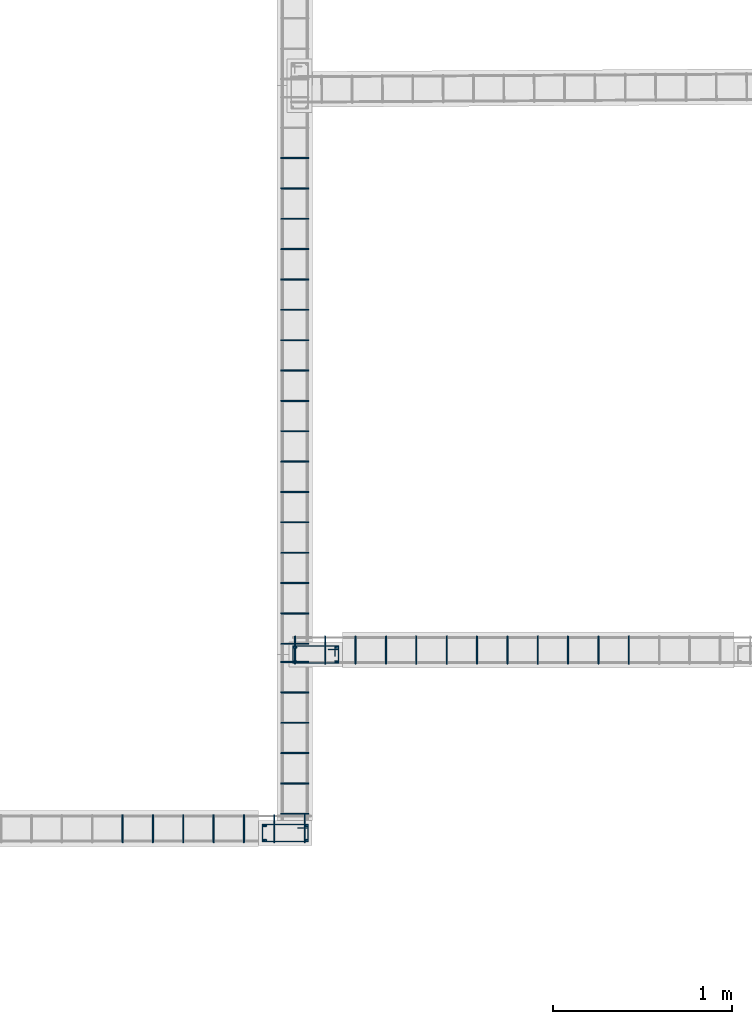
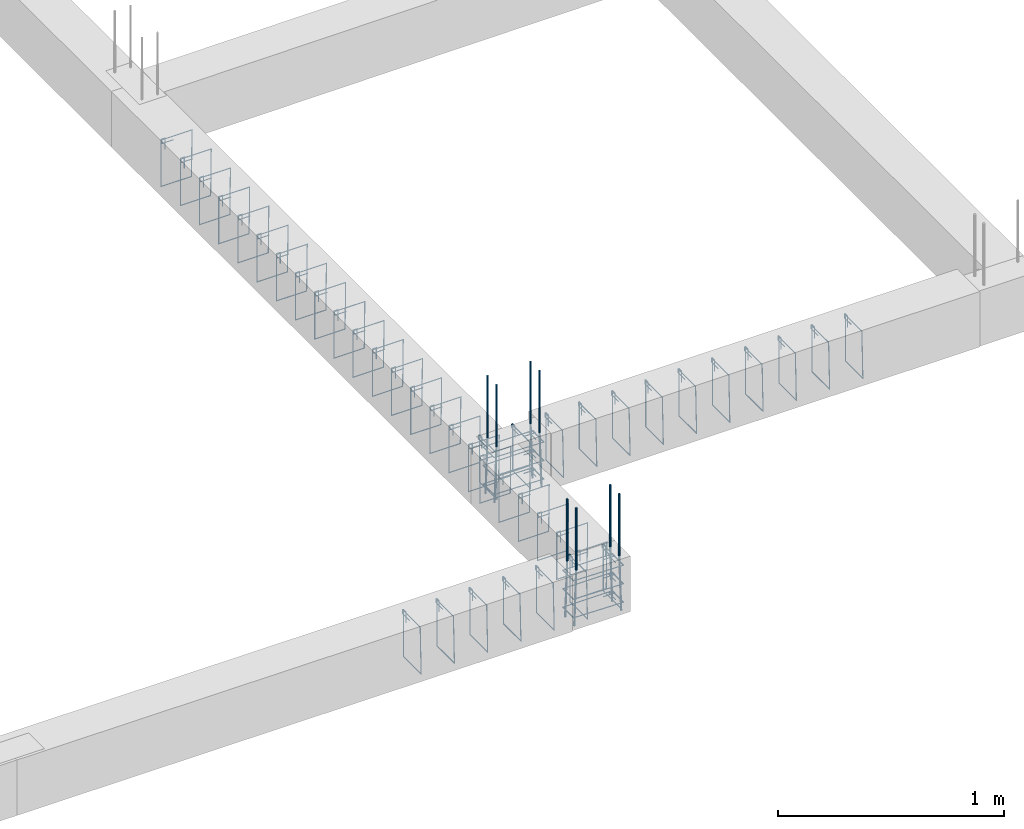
# One storey, part 23 of 150: 56 reinforcing bars.
"""IFC4 building model written with IfcOpenShell, lengths in centimetres."""

from ifc_helpers import new_model, entity, si_unit, derived_unit, frame, origin_with_axes, place, context, project, spatial, source, transform, mapped, element, save


model = new_model("IFC4")

# Units and contexts
model_context = context("Model", 3, precision=1e-05, world=origin_with_axes(), identifier="Body")
ifc_project = project(units=[si_unit("LENGTHUNIT", "METRE", prefix="CENTI"), si_unit("VOLUMEUNIT", "CUBIC_METRE"), si_unit("AREAUNIT", "SQUARE_METRE"), si_unit("POWERUNIT", "WATT"), si_unit("LUMINOUSFLUXUNIT", "LUMEN"), si_unit("ELECTRICCURRENTUNIT", "AMPERE"), si_unit("PRESSUREUNIT", "PASCAL", prefix="KILO"), si_unit("MASSUNIT", "GRAM", prefix="KILO"), si_unit("PLANEANGLEUNIT", "RADIAN"), derived_unit("VOLUMETRICFLOWRATEUNIT", [(si_unit("LENGTHUNIT", "METRE"), 3), (si_unit("TIMEUNIT", "SECOND"), -1)])], contexts=[model_context])

# Site, building, storey
site_placement = place(None, frame((-4000.0, 0.0, 0.0), z_axis=(0.0, 0.0, 1.0), x_axis=(1.0, 0.0, 0.0)))
site = spatial("IfcSite", under=ifc_project, at=site_placement, Name="PADRÃO")
building_placement = place(site_placement, frame((0.0, 0.0, -14.0)))
building = spatial("IfcBuilding", under=site, at=building_placement, Name="CRECHE PRÉ-ESCOLA TIPO 2")
placement = place(building_placement, origin_with_axes())
storey_placement = place(placement, frame((0.0, 0.0, 30.0), z_axis=(0.0, 0.0, 1.0), x_axis=(1.0, 0.0, 0.0)))
storey = spatial("IfcBuildingStorey", under=building, at=storey_placement, Name="VIGA BALDRAME", CompositionType="ELEMENT", Elevation=16.0)

# Reinforcing bars
shared_shape_1 = source(origin_with_axes(), model_context, "Body", "AdvancedSweptSolid", [
    entity("IfcSweptDiskSolid", entity("IfcCompositeCurve", [entity("IfcCompositeCurveSegment", "CONTINUOUS", True, entity("IfcPolyline", [entity("IfcCartesianPoint", [4.25, 21.75, 0.0]), entity("IfcCartesianPoint", [4.25, 27.75, 0.0])])), entity("IfcCompositeCurveSegment", "CONTINUOUS", True, entity("IfcPolyline", [entity("IfcCartesianPoint", [4.25, 27.75, 0.0]), entity("IfcCartesianPoint", [2.25, 27.75, 0.0])])), entity("IfcCompositeCurveSegment", "CONTINUOUS", True, entity("IfcPolyline", [entity("IfcCartesianPoint", [2.25, 27.75, 0.0]), entity("IfcCartesianPoint", [2.25, 2.25, 0.0])])), entity("IfcCompositeCurveSegment", "CONTINUOUS", True, entity("IfcPolyline", [entity("IfcCartesianPoint", [2.25, 2.25, 0.0]), entity("IfcCartesianPoint", [11.75, 2.25, 0.0])])), entity("IfcCompositeCurveSegment", "CONTINUOUS", True, entity("IfcPolyline", [entity("IfcCartesianPoint", [11.75, 2.25, 0.0]), entity("IfcCartesianPoint", [11.75, 27.75, -0.5])])), entity("IfcCompositeCurveSegment", "CONTINUOUS", True, entity("IfcPolyline", [entity("IfcCartesianPoint", [11.75, 27.75, -0.5]), entity("IfcCartesianPoint", [2.25, 27.75, -0.5])])), entity("IfcCompositeCurveSegment", "CONTINUOUS", True, entity("IfcPolyline", [entity("IfcCartesianPoint", [2.25, 27.75, -0.5]), entity("IfcCartesianPoint", [2.25, 25.75, -0.5])])), entity("IfcCompositeCurveSegment", "CONTINUOUS", True, entity("IfcPolyline", [entity("IfcCartesianPoint", [2.25, 25.75, -0.5]), entity("IfcCartesianPoint", [8.25, 25.75, -0.5])]))], False), 0.25),
])
for number, where, z_axis, x_axis, name in (
    (1, (1112.72, 522.01, -5.0), (0.0, 0.0, 1.0), (0.0, -1.0, 0.0), "P137 - Estribo"),
    (2, (1112.72, 522.01, -25.0), (0.0, 0.0, 1.0), (0.0, -1.0, 0.0), "P137 - Estribo"),
    (3, (1112.72, 522.01, -15.0), (0.0, 0.0, 1.0), (0.0, -1.0, 0.0), "P137 - Estribo"),
):
    element("IfcReinforcingBar", number, at=place(storey_placement, frame(where, z_axis=z_axis, x_axis=x_axis)), inside=storey, Name=name, BarLength=0.0, CrossSectionArea=1.9634954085e-05, NominalDiameter=0.5, PredefinedType="MAIN", context=model_context, shape_type="MappedRepresentation", body=[
        mapped(shared_shape_1, transform((0.0, 0.0, 0.0), scale=1.0)),
    ])
shared_shape_2 = source(origin_with_axes(), model_context, "Body", "AdvancedSweptSolid", [
    entity("IfcSweptDiskSolid", entity("IfcCompositeCurve", [entity("IfcCompositeCurveSegment", "CONTINUOUS", True, entity("IfcPolyline", [entity("IfcCartesianPoint", [4.25, 21.75, 0.0]), entity("IfcCartesianPoint", [4.25, 27.75, 0.0])])), entity("IfcCompositeCurveSegment", "CONTINUOUS", True, entity("IfcPolyline", [entity("IfcCartesianPoint", [4.25, 27.75, 0.0]), entity("IfcCartesianPoint", [2.25, 27.75, 0.0])])), entity("IfcCompositeCurveSegment", "CONTINUOUS", True, entity("IfcPolyline", [entity("IfcCartesianPoint", [2.25, 27.75, 0.0]), entity("IfcCartesianPoint", [2.25, 2.25, 0.0])])), entity("IfcCompositeCurveSegment", "CONTINUOUS", True, entity("IfcPolyline", [entity("IfcCartesianPoint", [2.25, 2.25, 0.0]), entity("IfcCartesianPoint", [11.75, 2.25, 0.0])])), entity("IfcCompositeCurveSegment", "CONTINUOUS", True, entity("IfcPolyline", [entity("IfcCartesianPoint", [11.75, 2.25, 0.0]), entity("IfcCartesianPoint", [11.75, 27.75, -0.5])])), entity("IfcCompositeCurveSegment", "CONTINUOUS", True, entity("IfcPolyline", [entity("IfcCartesianPoint", [11.75, 27.75, -0.5]), entity("IfcCartesianPoint", [2.25, 27.75, -0.5])])), entity("IfcCompositeCurveSegment", "CONTINUOUS", True, entity("IfcPolyline", [entity("IfcCartesianPoint", [2.25, 27.75, -0.5]), entity("IfcCartesianPoint", [2.25, 25.75, -0.5])])), entity("IfcCompositeCurveSegment", "CONTINUOUS", True, entity("IfcPolyline", [entity("IfcCartesianPoint", [2.25, 25.75, -0.5]), entity("IfcCartesianPoint", [8.25, 25.75, -0.5])]))], False), 0.25),
])
for number, where, z_axis, x_axis, name in (
    (4, (1095.72, 422.01, -25.0), (0.0, 0.0, 1.0), (0.0, -1.0, 0.0), "P145 - Estribo"),
    (5, (1095.72, 422.01, -15.0), (0.0, 0.0, 1.0), (0.0, -1.0, 0.0), "P145 - Estribo"),
    (6, (1095.72, 422.01, -5.0), (0.0, 0.0, 1.0), (0.0, -1.0, 0.0), "P145 - Estribo"),
):
    element("IfcReinforcingBar", number, at=place(storey_placement, frame(where, z_axis=z_axis, x_axis=x_axis)), inside=storey, Name=name, BarLength=0.0, CrossSectionArea=1.9634954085e-05, NominalDiameter=0.5, PredefinedType="MAIN", context=model_context, shape_type="MappedRepresentation", body=[
        mapped(shared_shape_2, transform((0.0, 0.0, 0.0), scale=1.0)),
    ])
shared_shape_3 = source(origin_with_axes(), model_context, "Body", "AdvancedSweptSolid", [
    entity("IfcSweptDiskSolid", entity("IfcCompositeCurve", [entity("IfcCompositeCurveSegment", "CONTINUOUS", True, entity("IfcPolyline", [entity("IfcCartesianPoint", [2.0, -6.0, 0.0]), entity("IfcCartesianPoint", [2.0, 0.0, 0.0])])), entity("IfcCompositeCurveSegment", "CONTINUOUS", True, entity("IfcPolyline", [entity("IfcCartesianPoint", [2.0, 0.0, 0.0]), entity("IfcCartesianPoint", [0.0, 0.0, 0.0])])), entity("IfcCompositeCurveSegment", "CONTINUOUS", True, entity("IfcPolyline", [entity("IfcCartesianPoint", [0.0, 0.0, 0.0]), entity("IfcCartesianPoint", [0.0, -25.5, 0.0])])), entity("IfcCompositeCurveSegment", "CONTINUOUS", True, entity("IfcPolyline", [entity("IfcCartesianPoint", [0.0, -25.5, 0.0]), entity("IfcCartesianPoint", [15.5, -25.5, 0.0])])), entity("IfcCompositeCurveSegment", "CONTINUOUS", True, entity("IfcPolyline", [entity("IfcCartesianPoint", [15.5, -25.5, 0.0]), entity("IfcCartesianPoint", [15.5, 0.0, 0.5])])), entity("IfcCompositeCurveSegment", "CONTINUOUS", True, entity("IfcPolyline", [entity("IfcCartesianPoint", [15.5, 0.0, 0.5]), entity("IfcCartesianPoint", [0.0, 0.0, 0.5])])), entity("IfcCompositeCurveSegment", "CONTINUOUS", True, entity("IfcPolyline", [entity("IfcCartesianPoint", [0.0, 0.0, 0.5]), entity("IfcCartesianPoint", [0.0, -2.0, 0.5])])), entity("IfcCompositeCurveSegment", "CONTINUOUS", True, entity("IfcPolyline", [entity("IfcCartesianPoint", [0.0, -2.0, 0.5]), entity("IfcCartesianPoint", [6.0, -2.0, 0.5])]))], False), 0.25),
])
for number, where, z_axis, x_axis, name in (
    (7, (1121.75499958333, 425.26, -2.25), (-1.0, 0.0, 0.0), (0.0, -1.0, 0.0), "V154 - Estribo"),
    (8, (1104.75499958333, 425.26, -2.25), (-1.0, 0.0, 0.0), (0.0, -1.0, 0.0), "V154 - Estribo"),
    (9, (1087.75499958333, 425.26, -2.25), (-1.0, 0.0, 0.0), (0.0, -1.0, 0.0), "V154 - Estribo"),
    (10, (1070.75499958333, 425.26, -2.25), (-1.0, 0.0, 0.0), (0.0, -1.0, 0.0), "V154 - Estribo"),
    (11, (1053.75499958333, 425.26, -2.25), (-1.0, 0.0, 0.0), (0.0, -1.0, 0.0), "V154 - Estribo"),
    (12, (1036.75499958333, 425.26, -2.25), (-1.0, 0.0, 0.0), (0.0, -1.0, 0.0), "V154 - Estribo"),
    (13, (1019.75499958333, 425.26, -2.25), (-1.0, 0.0, 0.0), (0.0, -1.0, 0.0), "V154 - Estribo"),
):
    element("IfcReinforcingBar", number, at=place(storey_placement, frame(where, z_axis=z_axis, x_axis=x_axis)), inside=storey, Name=name, BarLength=0.0, CrossSectionArea=1.9634954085e-05, NominalDiameter=0.5, PredefinedType="MAIN", context=model_context, shape_type="MappedRepresentation", body=[
        mapped(shared_shape_3, transform((0.0, 0.0, 0.0), scale=1.0)),
    ])
shared_shape_4 = source(origin_with_axes(), model_context, "Body", "AdvancedSweptSolid", [
    entity("IfcSweptDiskSolid", entity("IfcCompositeCurve", [entity("IfcCompositeCurveSegment", "CONTINUOUS", True, entity("IfcPolyline", [entity("IfcCartesianPoint", [2.0, -6.0, 0.0]), entity("IfcCartesianPoint", [2.0, 0.0, 0.0])])), entity("IfcCompositeCurveSegment", "CONTINUOUS", True, entity("IfcPolyline", [entity("IfcCartesianPoint", [2.0, 0.0, 0.0]), entity("IfcCartesianPoint", [0.0, 0.0, 0.0])])), entity("IfcCompositeCurveSegment", "CONTINUOUS", True, entity("IfcPolyline", [entity("IfcCartesianPoint", [0.0, 0.0, 0.0]), entity("IfcCartesianPoint", [0.0, -25.5, 0.0])])), entity("IfcCompositeCurveSegment", "CONTINUOUS", True, entity("IfcPolyline", [entity("IfcCartesianPoint", [0.0, -25.5, 0.0]), entity("IfcCartesianPoint", [15.5, -25.5, 0.0])])), entity("IfcCompositeCurveSegment", "CONTINUOUS", True, entity("IfcPolyline", [entity("IfcCartesianPoint", [15.5, -25.5, 0.0]), entity("IfcCartesianPoint", [15.5, 0.0, 0.5])])), entity("IfcCompositeCurveSegment", "CONTINUOUS", True, entity("IfcPolyline", [entity("IfcCartesianPoint", [15.5, 0.0, 0.5]), entity("IfcCartesianPoint", [0.0, 0.0, 0.5])])), entity("IfcCompositeCurveSegment", "CONTINUOUS", True, entity("IfcPolyline", [entity("IfcCartesianPoint", [0.0, 0.0, 0.5]), entity("IfcCartesianPoint", [0.0, -2.0, 0.5])])), entity("IfcCompositeCurveSegment", "CONTINUOUS", True, entity("IfcPolyline", [entity("IfcCartesianPoint", [0.0, -2.0, 0.5]), entity("IfcCartesianPoint", [6.0, -2.0, 0.5])]))], False), 0.25),
])
for number, where, z_axis, x_axis, name in (
    (14, (1133.28, 525.26, -2.25), (-1.0, 0.0, 0.0), (0.0, -1.0, 0.0), "V150 - Estribo"),
    (15, (1116.28, 525.26, -2.25), (-1.0, 0.0, 0.0), (0.0, -1.0, 0.0), "V150 - Estribo"),
    (16, (1218.28, 525.26, -2.25), (-1.0, 0.0, 0.0), (0.0, -1.0, 0.0), "V150 - Estribo"),
    (17, (1201.28, 525.26, -2.25), (-1.0, 0.0, 0.0), (0.0, -1.0, 0.0), "V150 - Estribo"),
    (18, (1235.28, 525.26, -2.25), (-1.0, 0.0, 0.0), (0.0, -1.0, 0.0), "V150 - Estribo"),
    (19, (1252.28, 525.26, -2.25), (-1.0, 0.0, 0.0), (0.0, -1.0, 0.0), "V150 - Estribo"),
    (20, (1184.28, 525.26, -2.25), (-1.0, 0.0, 0.0), (0.0, -1.0, 0.0), "V150 - Estribo"),
    (21, (1286.28, 525.26, -2.25), (-1.0, 0.0, 0.0), (0.0, -1.0, 0.0), "V150 - Estribo"),
    (22, (1269.28, 525.26, -2.25), (-1.0, 0.0, 0.0), (0.0, -1.0, 0.0), "V150 - Estribo"),
    (23, (1167.28, 525.26, -2.25), (-1.0, 0.0, 0.0), (0.0, -1.0, 0.0), "V150 - Estribo"),
    (24, (1150.28, 525.26, -2.25), (-1.0, 0.0, 0.0), (0.0, -1.0, 0.0), "V150 - Estribo"),
    (25, (1303.28, 525.26, -2.25), (-1.0, 0.0, 0.0), (0.0, -1.0, 0.0), "V150 - Estribo"),
):
    element("IfcReinforcingBar", number, at=place(storey_placement, frame(where, z_axis=z_axis, x_axis=x_axis)), inside=storey, Name=name, BarLength=0.0, CrossSectionArea=1.9634954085e-05, NominalDiameter=0.5, PredefinedType="MAIN", context=model_context, shape_type="MappedRepresentation", body=[
        mapped(shared_shape_4, transform((0.0, 0.0, 0.0), scale=1.0)),
    ])
shared_shape_5 = source(origin_with_axes(), model_context, "Body", "AdvancedSweptSolid", [
    entity("IfcSweptDiskSolid", entity("IfcCompositeCurve", [entity("IfcCompositeCurveSegment", "CONTINUOUS", True, entity("IfcPolyline", [entity("IfcCartesianPoint", [2.0, -6.0, 0.0]), entity("IfcCartesianPoint", [2.0, 0.0, 0.0])])), entity("IfcCompositeCurveSegment", "CONTINUOUS", True, entity("IfcPolyline", [entity("IfcCartesianPoint", [2.0, 0.0, 0.0]), entity("IfcCartesianPoint", [0.0, 0.0, 0.0])])), entity("IfcCompositeCurveSegment", "CONTINUOUS", True, entity("IfcPolyline", [entity("IfcCartesianPoint", [0.0, 0.0, 0.0]), entity("IfcCartesianPoint", [0.0, -25.5, 0.0])])), entity("IfcCompositeCurveSegment", "CONTINUOUS", True, entity("IfcPolyline", [entity("IfcCartesianPoint", [0.0, -25.5, 0.0]), entity("IfcCartesianPoint", [15.5, -25.5, 0.0])])), entity("IfcCompositeCurveSegment", "CONTINUOUS", True, entity("IfcPolyline", [entity("IfcCartesianPoint", [15.5, -25.5, 0.0]), entity("IfcCartesianPoint", [15.5, 0.0, 0.5])])), entity("IfcCompositeCurveSegment", "CONTINUOUS", True, entity("IfcPolyline", [entity("IfcCartesianPoint", [15.5, 0.0, 0.5]), entity("IfcCartesianPoint", [0.0, 0.0, 0.5])])), entity("IfcCompositeCurveSegment", "CONTINUOUS", True, entity("IfcPolyline", [entity("IfcCartesianPoint", [0.0, 0.0, 0.5]), entity("IfcCartesianPoint", [0.0, -2.0, 0.5])])), entity("IfcCompositeCurveSegment", "CONTINUOUS", True, entity("IfcPolyline", [entity("IfcCartesianPoint", [0.0, -2.0, 0.5]), entity("IfcCartesianPoint", [6.0, -2.0, 0.5])]))], False), 0.25),
])
for number, where, z_axis, x_axis, name in (
    (26, (1108.25, 426.01, -2.25), (0.0, -1.0, 0.0), (1.0, 0.0, 0.0), "V182 - Estribo"),
    (27, (1108.25, 443.01, -2.25), (0.0, -1.0, 0.0), (1.0, 0.0, 0.0), "V182 - Estribo"),
    (28, (1108.25, 460.01, -2.25), (0.0, -1.0, 0.0), (1.0, 0.0, 0.0), "V182 - Estribo"),
    (29, (1108.25, 477.01, -2.25), (0.0, -1.0, 0.0), (1.0, 0.0, 0.0), "V182 - Estribo"),
    (30, (1108.25, 494.01, -2.25), (0.0, -1.0, 0.0), (1.0, 0.0, 0.0), "V182 - Estribo"),
    (31, (1108.25, 511.01, -2.25), (0.0, -1.0, 0.0), (1.0, 0.0, 0.0), "V182 - Estribo"),
):
    element("IfcReinforcingBar", number, at=place(storey_placement, frame(where, z_axis=z_axis, x_axis=x_axis)), inside=storey, Name=name, BarLength=0.0, CrossSectionArea=1.9634954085e-05, NominalDiameter=0.5, PredefinedType="MAIN", context=model_context, shape_type="MappedRepresentation", body=[
        mapped(shared_shape_5, transform((0.0, 0.0, 0.0), scale=1.0)),
    ])
shared_shape_6 = source(origin_with_axes(), model_context, "Body", "AdvancedSweptSolid", [
    entity("IfcSweptDiskSolid", entity("IfcCompositeCurve", [entity("IfcCompositeCurveSegment", "CONTINUOUS", True, entity("IfcPolyline", [entity("IfcCartesianPoint", [2.0, -6.0, 0.0]), entity("IfcCartesianPoint", [2.0, 0.0, 0.0])])), entity("IfcCompositeCurveSegment", "CONTINUOUS", True, entity("IfcPolyline", [entity("IfcCartesianPoint", [2.0, 0.0, 0.0]), entity("IfcCartesianPoint", [0.0, 0.0, 0.0])])), entity("IfcCompositeCurveSegment", "CONTINUOUS", True, entity("IfcPolyline", [entity("IfcCartesianPoint", [0.0, 0.0, 0.0]), entity("IfcCartesianPoint", [0.0, -25.5, 0.0])])), entity("IfcCompositeCurveSegment", "CONTINUOUS", True, entity("IfcPolyline", [entity("IfcCartesianPoint", [0.0, -25.5, 0.0]), entity("IfcCartesianPoint", [15.5, -25.5, 0.0])])), entity("IfcCompositeCurveSegment", "CONTINUOUS", True, entity("IfcPolyline", [entity("IfcCartesianPoint", [15.5, -25.5, 0.0]), entity("IfcCartesianPoint", [15.5, 0.0, 0.5])])), entity("IfcCompositeCurveSegment", "CONTINUOUS", True, entity("IfcPolyline", [entity("IfcCartesianPoint", [15.5, 0.0, 0.5]), entity("IfcCartesianPoint", [0.0, 0.0, 0.5])])), entity("IfcCompositeCurveSegment", "CONTINUOUS", True, entity("IfcPolyline", [entity("IfcCartesianPoint", [0.0, 0.0, 0.5]), entity("IfcCartesianPoint", [0.0, -2.0, 0.5])])), entity("IfcCompositeCurveSegment", "CONTINUOUS", True, entity("IfcPolyline", [entity("IfcCartesianPoint", [0.0, -2.0, 0.5]), entity("IfcCartesianPoint", [6.0, -2.0, 0.5])]))], False), 0.25),
])
for number, where, z_axis, x_axis, name in (
    (32, (1108.25, 521.255, -2.25), (0.0, -1.0, 0.0), (1.0, 0.0, 0.0), "V182 - Estribo"),
    (33, (1108.25, 538.255, -2.25), (0.0, -1.0, 0.0), (1.0, 0.0, 0.0), "V182 - Estribo"),
    (34, (1108.25, 572.255, -2.25), (0.0, -1.0, 0.0), (1.0, 0.0, 0.0), "V182 - Estribo"),
    (35, (1108.25, 589.255, -2.25), (0.0, -1.0, 0.0), (1.0, 0.0, 0.0), "V182 - Estribo"),
    (36, (1108.25, 606.255, -2.25), (0.0, -1.0, 0.0), (1.0, 0.0, 0.0), "V182 - Estribo"),
    (37, (1108.25, 623.255, -2.25), (0.0, -1.0, 0.0), (1.0, 0.0, 0.0), "V182 - Estribo"),
    (38, (1108.25, 640.255, -2.25), (0.0, -1.0, 0.0), (1.0, 0.0, 0.0), "V182 - Estribo"),
    (39, (1108.25, 657.255, -2.25), (0.0, -1.0, 0.0), (1.0, 0.0, 0.0), "V182 - Estribo"),
    (40, (1108.25, 555.255, -2.25), (0.0, -1.0, 0.0), (1.0, 0.0, 0.0), "V182 - Estribo"),
    (41, (1108.25, 674.255, -2.25), (0.0, -1.0, 0.0), (1.0, 0.0, 0.0), "V182 - Estribo"),
    (42, (1108.25, 708.255, -2.25), (0.0, -1.0, 0.0), (1.0, 0.0, 0.0), "V182 - Estribo"),
    (43, (1108.25, 725.255, -2.25), (0.0, -1.0, 0.0), (1.0, 0.0, 0.0), "V182 - Estribo"),
    (44, (1108.25, 742.255, -2.25), (0.0, -1.0, 0.0), (1.0, 0.0, 0.0), "V182 - Estribo"),
    (45, (1108.25, 759.255, -2.25), (0.0, -1.0, 0.0), (1.0, 0.0, 0.0), "V182 - Estribo"),
    (46, (1108.25, 776.255, -2.25), (0.0, -1.0, 0.0), (1.0, 0.0, 0.0), "V182 - Estribo"),
    (47, (1108.25, 793.255, -2.25), (0.0, -1.0, 0.0), (1.0, 0.0, 0.0), "V182 - Estribo"),
    (48, (1108.25, 691.255, -2.25), (0.0, -1.0, 0.0), (1.0, 0.0, 0.0), "V182 - Estribo"),
):
    element("IfcReinforcingBar", number, at=place(storey_placement, frame(where, z_axis=z_axis, x_axis=x_axis)), inside=storey, Name=name, BarLength=0.0, CrossSectionArea=1.9634954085e-05, NominalDiameter=0.5, PredefinedType="MAIN", context=model_context, shape_type="MappedRepresentation", body=[
        mapped(shared_shape_6, transform((0.0, 0.0, 0.0), scale=1.0)),
    ])
reinforcing_bar_1_placement = place(storey_placement, frame((1116.22013877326, 511.01, 33.3573001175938), z_axis=(0.0, 0.0, 1.0), x_axis=(1.0, 0.0, 0.0)))
element("IfcReinforcingBar", 49, at=reinforcing_bar_1_placement, inside=storey, Name="P137 - Longitudinal", BarLength=0.0, CrossSectionArea=7.853981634e-05, NominalDiameter=1.0, PredefinedType="MAIN", context=model_context, shape_type="AdvancedSweptSolid", body=[
    entity("IfcSweptDiskSolid", entity("IfcCompositeCurve", [entity("IfcCompositeCurveSegment", "CONTINUOUS", True, entity("IfcPolyline", [entity("IfcCartesianPoint", [-0.50013877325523, 0.0, -63.3573001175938]), entity("IfcCartesianPoint", [0.49986122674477, 0.0, -33.3573001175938])])), entity("IfcCompositeCurveSegment", "CONTINUOUS", True, entity("IfcPolyline", [entity("IfcCartesianPoint", [0.49986122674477, 0.0, -33.3573001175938]), entity("IfcCartesianPoint", [0.49986122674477, 0.0, 0.0])]))], False), 0.5),
])
for number, where, z_axis, x_axis, name in (
    (50, (1139.21986122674, 511.01, 33.3573001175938), (0.0, 0.0, 1.0), (1.0, 0.0, 0.0), "P137 - Longitudinal"),
    (51, (1139.21986122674, 519.01, 33.3573001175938), (0.0, 0.0, 1.0), (1.0, 0.0, 0.0), "P137 - Longitudinal"),
):
    element("IfcReinforcingBar", number, at=place(storey_placement, frame(where, z_axis=z_axis, x_axis=x_axis)), inside=storey, Name=name, BarLength=0.0, CrossSectionArea=7.853981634e-05, NominalDiameter=1.0, PredefinedType="MAIN", context=model_context, shape_type="AdvancedSweptSolid", body=[
        entity("IfcSweptDiskSolid", entity("IfcCompositeCurve", [entity("IfcCompositeCurveSegment", "CONTINUOUS", True, entity("IfcPolyline", [entity("IfcCartesianPoint", [0.50013877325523, 0.0, -63.3573001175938]), entity("IfcCartesianPoint", [-0.49986122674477, 0.0, -33.3573001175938])])), entity("IfcCompositeCurveSegment", "CONTINUOUS", True, entity("IfcPolyline", [entity("IfcCartesianPoint", [-0.49986122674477, 0.0, -33.3573001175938]), entity("IfcCartesianPoint", [-0.49986122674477, 0.0, 0.0])]))], False), 0.5),
    ])
reinforcing_bar_2_placement = place(storey_placement, frame((1116.22013877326, 519.01, 33.3573001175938), z_axis=(0.0, 0.0, 1.0), x_axis=(1.0, 0.0, 0.0)))
element("IfcReinforcingBar", 52, at=reinforcing_bar_2_placement, inside=storey, Name="P137 - Longitudinal", BarLength=0.0, CrossSectionArea=7.853981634e-05, NominalDiameter=1.0, PredefinedType="MAIN", context=model_context, shape_type="AdvancedSweptSolid", body=[
    entity("IfcSweptDiskSolid", entity("IfcCompositeCurve", [entity("IfcCompositeCurveSegment", "CONTINUOUS", True, entity("IfcPolyline", [entity("IfcCartesianPoint", [-0.50013877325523, 0.0, -63.3573001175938]), entity("IfcCartesianPoint", [0.49986122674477, 0.0, -33.3573001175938])])), entity("IfcCompositeCurveSegment", "CONTINUOUS", True, entity("IfcPolyline", [entity("IfcCartesianPoint", [0.49986122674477, 0.0, -33.3573001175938]), entity("IfcCartesianPoint", [0.49986122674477, 0.0, 0.0])]))], False), 0.5),
])
reinforcing_bar_3_placement = place(storey_placement, frame((1122.21986122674, 419.01, 33.3573001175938), z_axis=(0.0, 0.0, 1.0), x_axis=(1.0, 0.0, 0.0)))
element("IfcReinforcingBar", 53, at=reinforcing_bar_3_placement, inside=storey, Name="P145 - Longitudinal", BarLength=0.0, CrossSectionArea=7.853981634e-05, NominalDiameter=1.0, PredefinedType="MAIN", context=model_context, shape_type="AdvancedSweptSolid", body=[
    entity("IfcSweptDiskSolid", entity("IfcCompositeCurve", [entity("IfcCompositeCurveSegment", "CONTINUOUS", True, entity("IfcPolyline", [entity("IfcCartesianPoint", [0.50013877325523, 0.0, -63.3573001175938]), entity("IfcCartesianPoint", [-0.49986122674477, 0.0, -33.3573001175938])])), entity("IfcCompositeCurveSegment", "CONTINUOUS", True, entity("IfcPolyline", [entity("IfcCartesianPoint", [-0.49986122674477, 0.0, -33.3573001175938]), entity("IfcCartesianPoint", [-0.49986122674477, 0.0, 0.0])]))], False), 0.5),
])
for number, where, z_axis, x_axis, name in (
    (54, (1099.22013877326, 419.01, 33.3573001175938), (0.0, 0.0, 1.0), (1.0, 0.0, 0.0), "P145 - Longitudinal"),
    (55, (1099.22013877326, 411.01, 33.3573001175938), (0.0, 0.0, 1.0), (1.0, 0.0, 0.0), "P145 - Longitudinal"),
):
    element("IfcReinforcingBar", number, at=place(storey_placement, frame(where, z_axis=z_axis, x_axis=x_axis)), inside=storey, Name=name, BarLength=0.0, CrossSectionArea=7.853981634e-05, NominalDiameter=1.0, PredefinedType="MAIN", context=model_context, shape_type="AdvancedSweptSolid", body=[
        entity("IfcSweptDiskSolid", entity("IfcCompositeCurve", [entity("IfcCompositeCurveSegment", "CONTINUOUS", True, entity("IfcPolyline", [entity("IfcCartesianPoint", [-0.50013877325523, 0.0, -63.3573001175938]), entity("IfcCartesianPoint", [0.49986122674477, 0.0, -33.3573001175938])])), entity("IfcCompositeCurveSegment", "CONTINUOUS", True, entity("IfcPolyline", [entity("IfcCartesianPoint", [0.49986122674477, 0.0, -33.3573001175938]), entity("IfcCartesianPoint", [0.49986122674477, 0.0, 0.0])]))], False), 0.5),
    ])
reinforcing_bar_4_placement = place(storey_placement, frame((1122.21986122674, 411.01, 33.3573001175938), z_axis=(0.0, 0.0, 1.0), x_axis=(1.0, 0.0, 0.0)))
element("IfcReinforcingBar", 56, at=reinforcing_bar_4_placement, inside=storey, Name="P145 - Longitudinal", BarLength=0.0, CrossSectionArea=7.853981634e-05, NominalDiameter=1.0, PredefinedType="MAIN", context=model_context, shape_type="AdvancedSweptSolid", body=[
    entity("IfcSweptDiskSolid", entity("IfcCompositeCurve", [entity("IfcCompositeCurveSegment", "CONTINUOUS", True, entity("IfcPolyline", [entity("IfcCartesianPoint", [0.50013877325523, 0.0, -63.3573001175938]), entity("IfcCartesianPoint", [-0.49986122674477, 0.0, -33.3573001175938])])), entity("IfcCompositeCurveSegment", "CONTINUOUS", True, entity("IfcPolyline", [entity("IfcCartesianPoint", [-0.49986122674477, 0.0, -33.3573001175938]), entity("IfcCartesianPoint", [-0.49986122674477, 0.0, 0.0])]))], False), 0.5),
])

save(model, "model.ifc")
